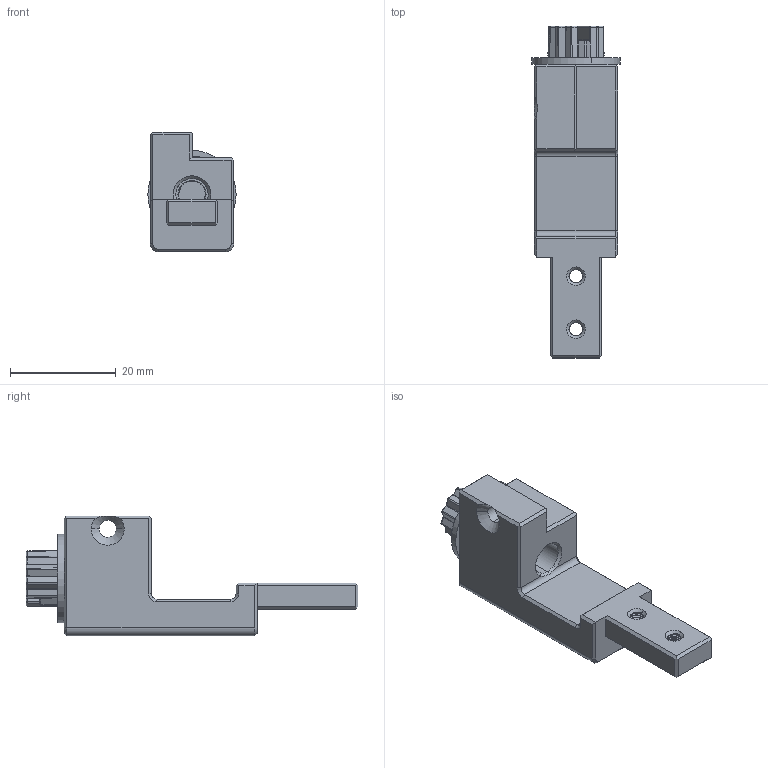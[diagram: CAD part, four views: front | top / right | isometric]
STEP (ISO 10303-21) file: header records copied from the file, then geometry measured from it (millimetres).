
FILE_DESCRIPTION((''),'2;1');
FILE_NAME('YPJT-S015700_ASM','2026-07-08T18:04:43',('小橙子'),(''),'CREO PARAMETRIC BY PTC INC, 2019080','CREO PARAMETRIC BY PTC INC, 2019080','');
FILE_SCHEMA(('CONFIG_CONTROL_DESIGN','SHAPE_APPEARANCE_LAYERS_GROUPS'));
Length unit declared in the file: millimetre
Products named in the file (3): LC6051565-02; 9209-00392; YPJT-S015700_ASM
Assembly tree (2 placements, depth 2):
  YPJT-S015700_ASM
    LC6051565-02
    9209-00392
Bounding box: 16.7 x 62.75 x 22.66 mm (x, y, z)
Volume: 7281.8 mm3; surface area: 5730 mm2
Topology: 2 solids, 2 shells, 339 faces, 861 edges, 533 vertices
Faces by surface type: plane 112, cylinder 97, cone 69, bspline 39, torus 22
Entity records: 21964 total; most frequent: CARTESIAN_POINT 11658, ORIENTED_EDGE 1722, DIRECTION 1598, EDGE_CURVE 861, AXIS2_PLACEMENT_3D 582, PRESENTATION_STYLE_ASSIGNMENT 536, STYLED_ITEM 536, VERTEX_POINT 533
